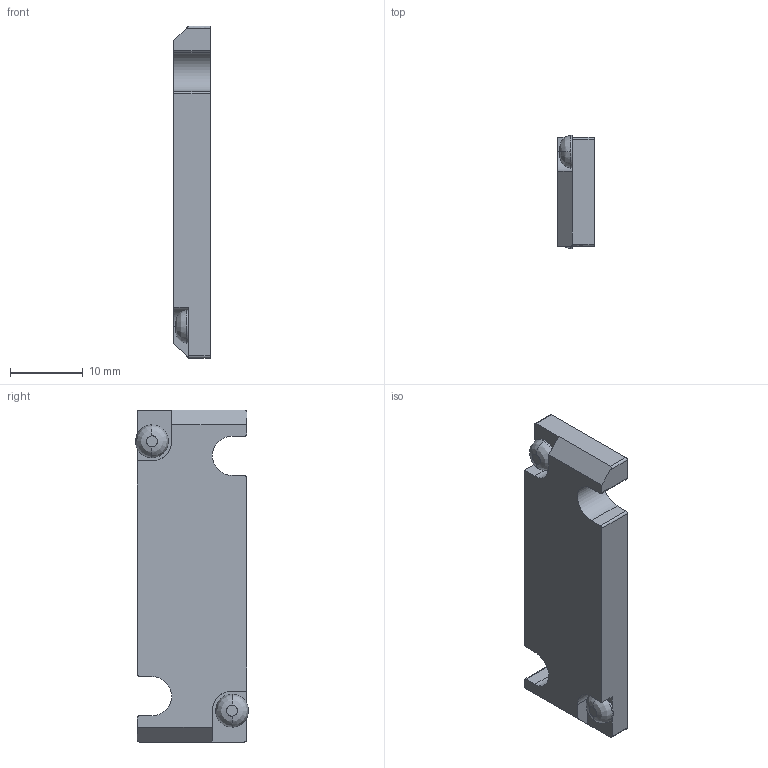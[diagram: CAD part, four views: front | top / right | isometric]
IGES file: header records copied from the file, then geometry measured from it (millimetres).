
Start section: ------------------------------------------------------------------------
Global section: file name: D:\ICADMX\tmp\trans3d_spg\CVICAD02.15632.F10-PP_15283.igs; native system: spGate; preprocessor: ver12.6.6; author: Unknown; organization: Unknown; date: 200901.145839; units: millimetre
Bounding box: 5 x 15.5 x 45.6 mm (x, y, z)
Volume: 3072.9 mm3; surface area: 1944 mm2
Topology: 1 solids, 1 shells, 44 faces, 116 edges, 74 vertices
Faces by surface type: bspline 44
